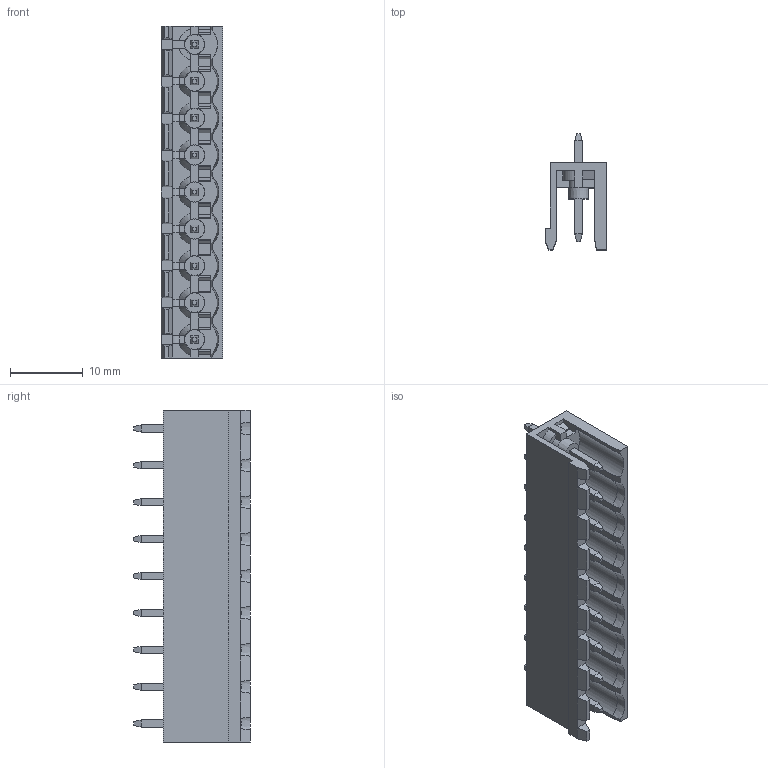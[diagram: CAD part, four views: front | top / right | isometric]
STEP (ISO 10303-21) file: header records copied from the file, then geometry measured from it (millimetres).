
FILE_DESCRIPTION (( 'STEP AP203' ), '1' );
FILE_NAME ('BR8MC1-09.STEP', '2020-03-18T02:58:25', ( '' ), ( '' ), 'SwSTEP 2.0', 'SolidWorks 2019', '' );
FILE_SCHEMA (( 'CONFIG_CONTROL_DESIGN' ));
Length unit declared in the file: millimetre
Products named in the file (1): BR8MC1-09
Bounding box: 8.5 x 16.03 x 45.72 mm (x, y, z)
Volume: 1733.5 mm3; surface area: 3872.3 mm2
Topology: 1 solids, 1 shells, 766 faces, 1998 edges, 1234 vertices
Faces by surface type: plane 660, cylinder 46, cone 42, sphere 18
Entity records: 22808 total; most frequent: CARTESIAN_POINT 4333, ORIENTED_EDGE 3924, DIRECTION 3593, EDGE_CURVE 1962, VECTOR 1681, LINE 1681, VERTEX_POINT 1216, AXIS2_PLACEMENT_3D 956
